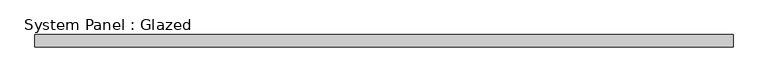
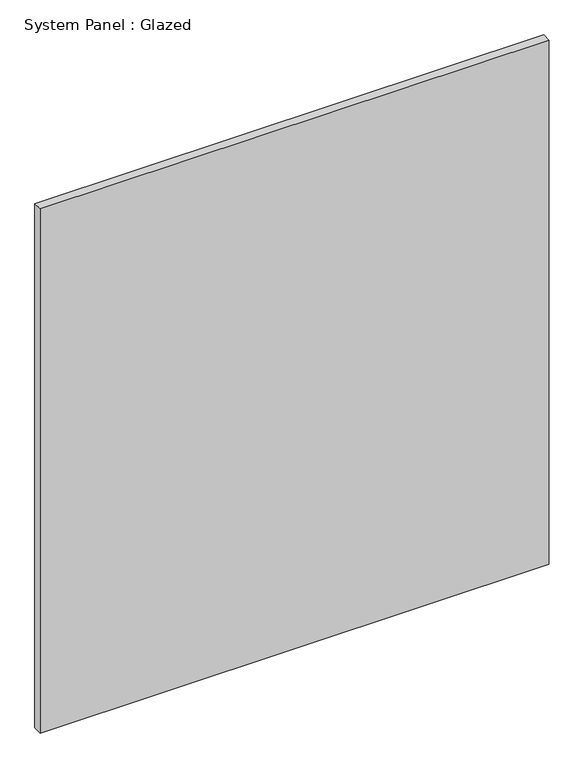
"""IFC4 building model written with IfcOpenShell, lengths in millimetres: plate geometry, System Panel : Glazed."""

from ifc_helpers import new_model, si_unit, origin, origin_with_axes, place, context, project, spatial, polyline, outline, extrude, source, transform, mapped, element, save


def system_panel_glazed_41a16be2(model_context):
    return source(origin(), model_context, "Body", "SweptSolid", [
        extrude(outline(polyline([(714.4773927, 19.05), (-714.4773927, 19.05), (-714.4773927, 44.45), (714.4773927, 44.45), (714.4773927, 19.05)])), origin_with_axes(), (0.0, 0.0, 1.0), 1555.75),
    ])


if __name__ == "__main__":
    model = new_model("IFC4")
    model_context = context("Model", 3, world=origin())
    ifc_project = project(units=[si_unit("LENGTHUNIT", "METRE", prefix="MILLI")], contexts=[model_context])
    site = spatial("IfcSite", under=ifc_project)
    building = spatial("IfcBuilding", under=site)
    placement = place(None, origin())
    system_panel_glazed_shape = system_panel_glazed_41a16be2(model_context)
    element("IfcPlate", 1, ObjectType="System Panel : Glazed", at=placement, inside=building, context=model_context, shape_type="MappedRepresentation", body=[
        mapped(system_panel_glazed_shape, transform((0.0, 0.0, 0.0), x_axis=(1.0, 0.0, 0.0), y_axis=(0.0, 1.0, 0.0), z_axis=(0.0, 0.0, 1.0))),
    ])
    save(model, "model.ifc")
